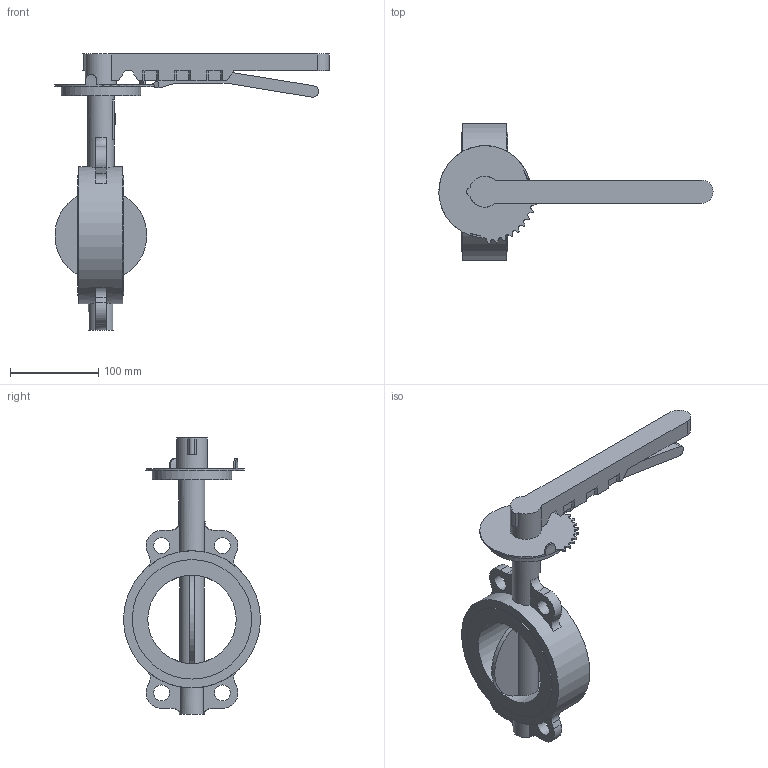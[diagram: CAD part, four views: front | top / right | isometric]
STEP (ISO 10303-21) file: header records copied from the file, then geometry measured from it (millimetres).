
FILE_DESCRIPTION(('STEP AP203'), '1');
FILE_NAME('Çàòâîð 017W.Y_DN100_ðóêîÿòü', '', ('UNSPECIFIED'), ('UNSPECIFIED'), 'ASCON STEP Converter 1.6', 'ASCON Math Kernel', '');
FILE_SCHEMA(('CONFIG_CONTROL_DESIGN'));
Length unit declared in the file: millimetre
Bounding box: 310 x 155 x 312 mm (x, y, z)
Volume: 1049558.3 mm3; surface area: 159113.2 mm2
Topology: 1 solids, 1 shells, 204 faces, 556 edges, 366 vertices
Faces by surface type: plane 131, cylinder 69, torus 4
Full cylindrical faces by diameter (mm): 10 x4, 18 x4, 30 x1, 35 x1, 90 x1, 100 x1, 135 x2, 155 x1
Entity records: 9479 total; most frequent: CARTESIAN_POINT 2607, ORIENTED_EDGE 1082, DIRECTION 1067, EDGE_CURVE 541, VERTEX_POINT 366, AXIS2_PLACEMENT_3D 357, LINE 353, VECTOR 353
